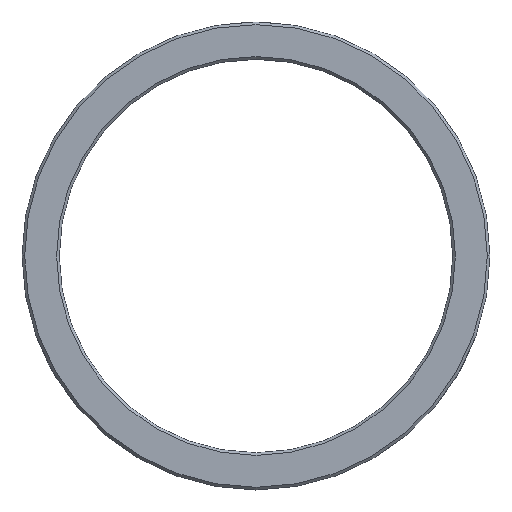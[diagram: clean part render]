
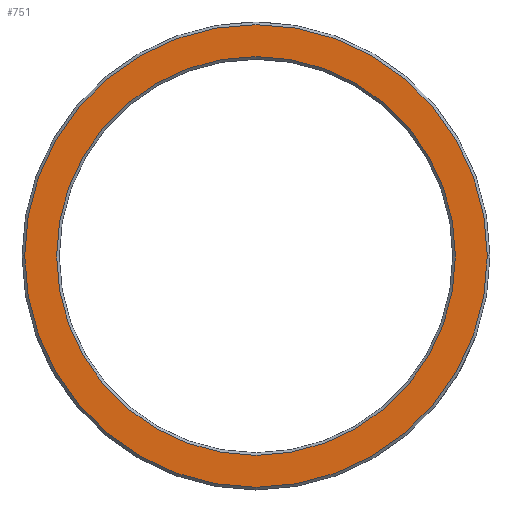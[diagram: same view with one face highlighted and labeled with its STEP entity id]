
A CAD part, top view. The second image highlights one B-rep face of the part: STEP entity #751.
In plain terms, the highlighted planar face has unit normal (0, 0, 1).
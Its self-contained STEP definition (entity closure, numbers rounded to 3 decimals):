
#4 = CIRCLE ( 'NONE', #66, 37.5 ) ;
#20 = CARTESIAN_POINT ( 'NONE',  ( 0., 0., 0. ) ) ;
#35 = VERTEX_POINT ( 'NONE', #789 ) ;
#36 = CARTESIAN_POINT ( 'NONE',  ( 0., 37.5, 0. ) ) ;
#46 = PLANE ( 'NONE',  #622 ) ;
#66 = AXIS2_PLACEMENT_3D ( 'NONE', #20, #310, #159 ) ;
#69 = DIRECTION ( 'NONE',  ( 1., 0., 0. ) ) ;
#71 = EDGE_LOOP ( 'NONE', ( #484, #174 ) ) ;
#126 = CIRCLE ( 'NONE', #669, 43.5 ) ;
#159 = DIRECTION ( 'NONE',  ( 1., 0., 0. ) ) ;
#174 = ORIENTED_EDGE ( 'NONE', *, *, #871, .T. ) ;
#213 = DIRECTION ( 'NONE',  ( 1., 0., 0. ) ) ;
#218 = EDGE_CURVE ( 'NONE', #35, #512, #652, .T. ) ;
#237 = VERTEX_POINT ( 'NONE', #380 ) ;
#302 = CARTESIAN_POINT ( 'NONE',  ( 0., 0., 0. ) ) ;
#310 = DIRECTION ( 'NONE',  ( 0., 0., 1. ) ) ;
#337 = CIRCLE ( 'NONE', #373, 37.5 ) ;
#347 = EDGE_CURVE ( 'NONE', #357, #237, #4, .T. ) ;
#352 = CARTESIAN_POINT ( 'NONE',  ( 0., 0., 0. ) ) ;
#357 = VERTEX_POINT ( 'NONE', #467 ) ;
#358 = DIRECTION ( 'NONE',  ( 0., 0., 1. ) ) ;
#373 = AXIS2_PLACEMENT_3D ( 'NONE', #302, #920, #526 ) ;
#380 = CARTESIAN_POINT ( 'NONE',  ( 37.5, 0., 0. ) ) ;
#438 = EDGE_LOOP ( 'NONE', ( #903, #843 ) ) ;
#467 = CARTESIAN_POINT ( 'NONE',  ( -37.5, 0., 0. ) ) ;
#481 = FACE_OUTER_BOUND ( 'NONE', #71, .T. ) ;
#484 = ORIENTED_EDGE ( 'NONE', *, *, #218, .T. ) ;
#491 = DIRECTION ( 'NONE',  ( 0., 0., -1. ) ) ;
#512 = VERTEX_POINT ( 'NONE', #671 ) ;
#526 = DIRECTION ( 'NONE',  ( 1., 0., 0. ) ) ;
#558 = DIRECTION ( 'NONE',  ( -1., 0., 0. ) ) ;
#622 = AXIS2_PLACEMENT_3D ( 'NONE', #36, #491, #558 ) ;
#642 = EDGE_CURVE ( 'NONE', #237, #357, #337, .T. ) ;
#652 = CIRCLE ( 'NONE', #785, 43.5 ) ;
#669 = AXIS2_PLACEMENT_3D ( 'NONE', #352, #358, #213 ) ;
#671 = CARTESIAN_POINT ( 'NONE',  ( 43.5, 0., 0. ) ) ;
#741 = DIRECTION ( 'NONE',  ( 0., 0., 1. ) ) ;
#751 = ADVANCED_FACE ( 'NONE', ( #798, #481 ), #46, .F. ) ;
#785 = AXIS2_PLACEMENT_3D ( 'NONE', #962, #741, #69 ) ;
#789 = CARTESIAN_POINT ( 'NONE',  ( -43.5, 0., 0. ) ) ;
#798 = FACE_BOUND ( 'NONE', #438, .T. ) ;
#843 = ORIENTED_EDGE ( 'NONE', *, *, #347, .F. ) ;
#871 = EDGE_CURVE ( 'NONE', #512, #35, #126, .T. ) ;
#903 = ORIENTED_EDGE ( 'NONE', *, *, #642, .F. ) ;
#920 = DIRECTION ( 'NONE',  ( 0., 0., 1. ) ) ;
#962 = CARTESIAN_POINT ( 'NONE',  ( 0., 0., 0. ) ) ;
